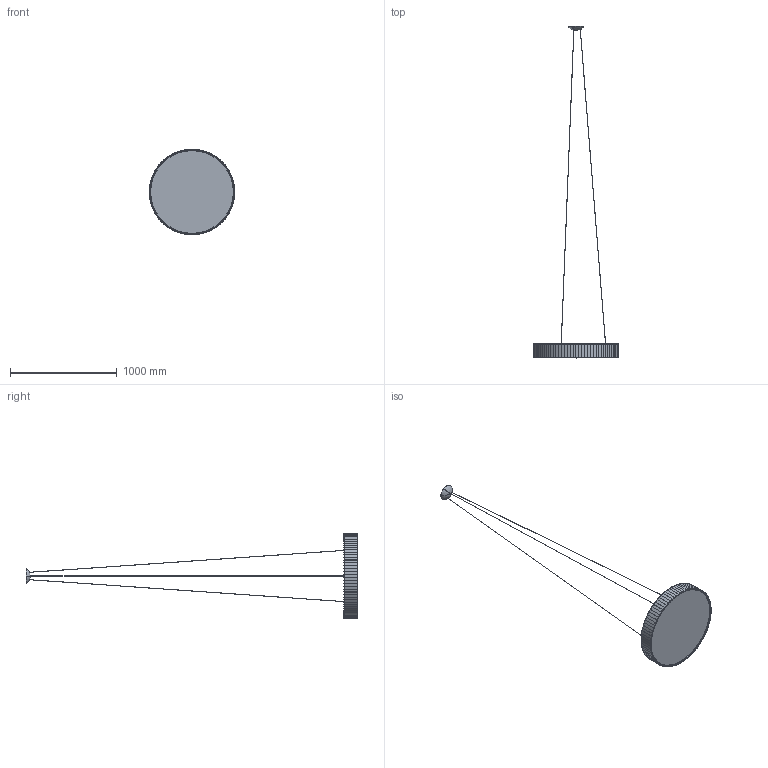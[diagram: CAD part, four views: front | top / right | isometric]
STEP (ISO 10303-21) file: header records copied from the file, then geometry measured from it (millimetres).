
FILE_DESCRIPTION (( 'STEP AP203' ), '1' );
FILE_NAME ('SPTES080POXXXXX-PER 3D.STEP', '2025-06-25T10:59:44', ( '' ), ( '' ), 'SwSTEP 2.0', 'SolidWorks 2024', '' );
FILE_SCHEMA (( 'CONFIG_CONTROL_DESIGN' ));
Length unit declared in the file: millimetre
Products named in the file (9): PSPPLTESSY80H13PON-01; SPTES080POXXXXX-PER 3D; TSPTESSYP80DWBC; MSPTESSYØ80-LED; WSASS-000000001-28; MONTANTE H120+FERMO; RIVESTIMENTO PONGÈ PARALUME Ø800; WSCA01193000B2830B; WSCM2J0001-0028-00
Assembly tree (99 placements, depth 4):
  SPTES080POXXXXX-PER 3D
    PSPPLTESSY80H13PON-01
      RIVESTIMENTO PONGÈ PARALUME Ø800  x90
      MONTANTE H120+FERMO
    MSPTESSYØ80-LED
      WSCA01193000B2830B  x3
      WSASS-000000001-28
        WSCM2J0001-0028-00
    TSPTESSYP80DWBC
Bounding box: 801.95 x 3113.98 x 802 mm (x, y, z)
Volume: 778201.4 mm3; surface area: 2498246.3 mm2
Topology: 97 solids, 97 shells, 995 faces, 2384 edges, 1584 vertices
Faces by surface type: cylinder 387, torus 382, plane 224, cone 2
Entity records: 6904 total; most frequent: CARTESIAN_POINT 921, DIRECTION 688, ORIENTED_EDGE 448, AXIS2_PLACEMENT_3D 300, CALENDAR_DATE 243, LOCAL_TIME 243, COORDINATED_UNIVERSAL_TIME_OFFSET 243, DATE_AND_TIME 243
